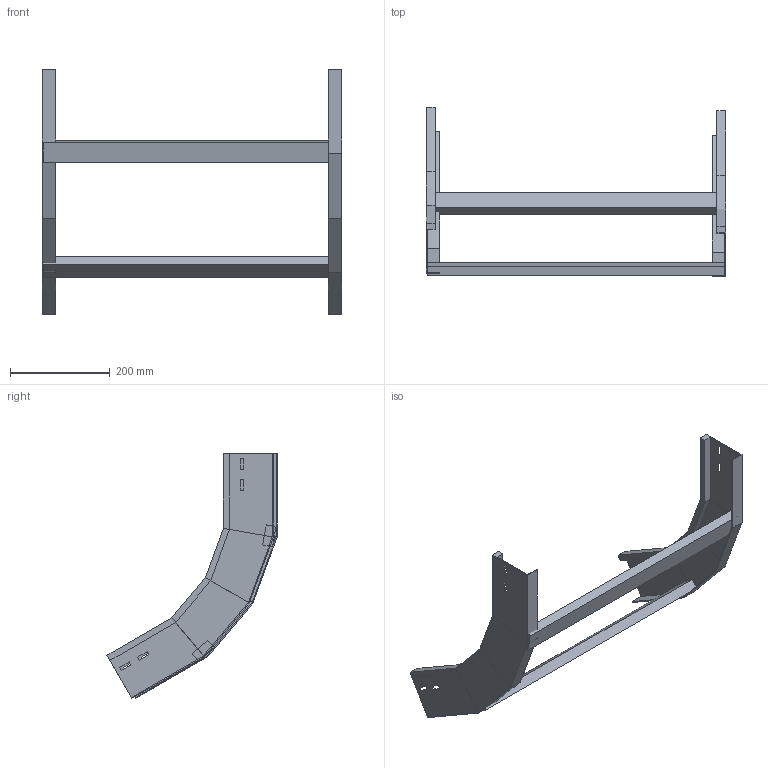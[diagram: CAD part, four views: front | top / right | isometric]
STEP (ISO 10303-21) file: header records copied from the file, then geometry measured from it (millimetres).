
FILE_DESCRIPTION (( 'STEP AP214' ), '1' );
FILE_NAME ('A2X40B3D600XX.step', '2025-04-02T09:47:04', ( '' ), ( '' ), 'SwSTEP 2.0', 'SolidWorks 2023', '' );
FILE_SCHEMA (( 'AUTOMOTIVE_DESIGN' ));
Length unit declared in the file: millimetre
Products named in the file (3): A2X40B3D600XX; LONGH.SALITA_60°_H100_R300; TRAVERSINO_600
Assembly tree (4 placements, depth 2):
  A2X40B3D600XX
    LONGH.SALITA_60°_H100_R300  x2
    TRAVERSINO_600  x2
Bounding box: 600 x 340.82 x 490.76 mm (x, y, z)
Volume: 1447970 mm3; surface area: 471888.7 mm2
Topology: 4 solids, 4 shells, 112 faces, 264 edges, 160 vertices
Faces by surface type: plane 112
Entity records: 1664 total; most frequent: CARTESIAN_POINT 275, ORIENTED_EDGE 264, DIRECTION 258, LINE 132, EDGE_CURVE 132, VECTOR 132, VERTEX_POINT 80, EDGE_LOOP 64
